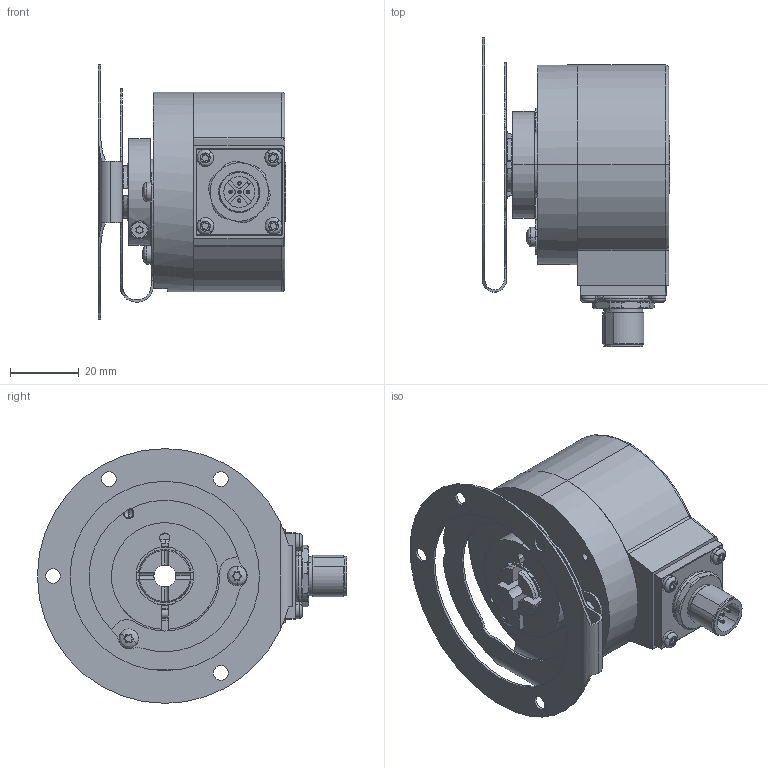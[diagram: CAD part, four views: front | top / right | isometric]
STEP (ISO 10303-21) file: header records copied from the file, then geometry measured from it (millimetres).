
FILE_DESCRIPTION (( 'STEP AP203' ), '1' );
FILE_NAME ('K58I.OXX.XXXXX.XH2351A.6XRC3.step', '2025-12-08T14:45:25', ( '' ), ( '' ), 'SwSTEP 2.0', 'SolidWorks 2021', '' );
FILE_SCHEMA (( 'CONFIG_CONTROL_DESIGN' ));
Length unit declared in the file: millimetre
Products named in the file (1): K58I.OXX.XXXXX.XH2351A.6XRC3
Bounding box: 54.39 x 89.8 x 74 mm (x, y, z)
Surface area: 45447.3 mm2 (no closed solid volume)
Topology: 0 solids, 14 shells, 614 faces, 1576 edges, 1009 vertices
Faces by surface type: cylinder 337, plane 172, cone 68, bspline 28, torus 9
Entity records: 21382 total; most frequent: CARTESIAN_POINT 6245, DIRECTION 3287, ORIENTED_EDGE 3108, EDGE_CURVE 1562, AXIS2_PLACEMENT_3D 1321, VERTEX_POINT 1009, CIRCLE 734, EDGE_LOOP 683
